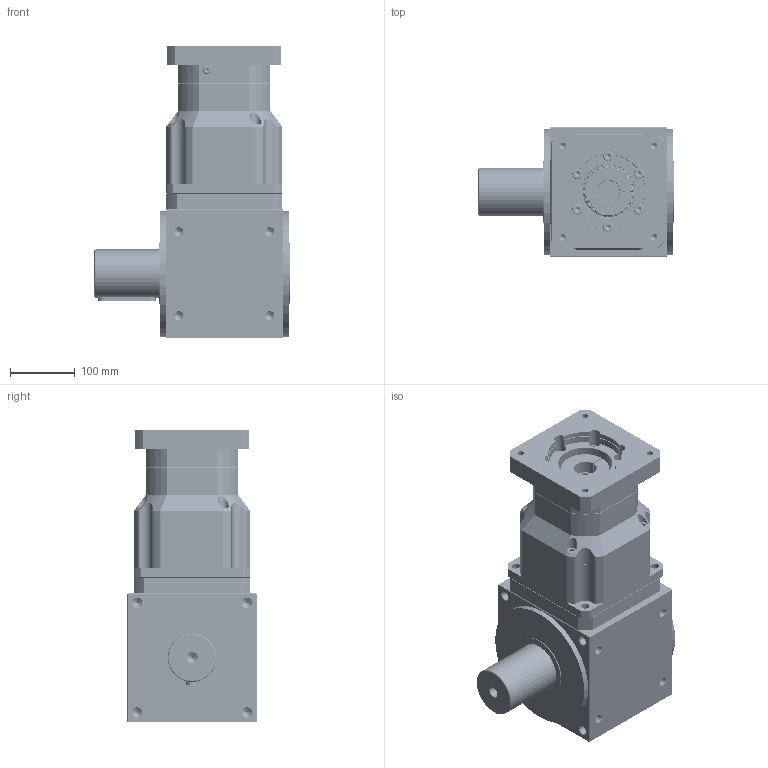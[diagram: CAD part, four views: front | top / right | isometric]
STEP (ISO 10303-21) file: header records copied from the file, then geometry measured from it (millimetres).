
FILE_DESCRIPTION (( 'STEP AP214' ), '1' );
FILE_NAME ('AAW200AS-L2-P 35-114.3-200-M12.STEP', '2021-04-24T05:23:21', ( 'Microsoft' ), ( 'Microsoft China' ), 'SwSTEP 2.0', 'SolidWorks 2016', '' );
FILE_SCHEMA (( 'AUTOMOTIVE_DESIGN' ));
Length unit declared in the file: millimetre
Products named in the file (39): 薊粣ん35K12; 幗渀粣創15.259X21.259; Deep groove ball bearings GB_Rolling bearings 6011 GB 276-94; 俴陎粣15.259; 粣創揤啣105; 蚐猾75X130X12; Circlips for hole--Type B GB_GB_CONNECTING_PIECE_RINGS_CHB 80; Deep groove ball bearings GB_Rolling bearings 61826 GB 276-94; 俴陎謫8; 怀堤粣5B; 幗渀粣創13.513X18.513; Deep groove ball bearings GB_Rolling bearings 6215 GB 276-94; 俴陎謫菜え13.6X27; 齿圈Z108; 俴陎粣13.513; 媼撰笢潔楊擘; AAW200AS-L2-2P--28-110-145-M8-SK; AAW200AS-L2-P 35-114.3-200-M12; 萇儂楊擘D114.3M12; Hex socket set screws with flat point GB_GB_FASTENER_SCREWS_HSFP M12X16-N; 俴陎殤5B-30; 薊粣ん菜え35; Deep groove ball bearings GB_Rolling bearings 61821 GB 276-94; Hexagon socket head cap screws GB_GB_FASTENER_SCREWS_HSHCS M10X30-N; 二级齿圈Z108; Hexagon socket countersunk head screws GB_GB_FASTENER_SCREWS_HSCHS M6X16-N; Spring lock washers--Normal type GB_GB_FASTENER_WASHER_SW 10; Spring lock washers--Normal type GB_GB_FASTENER_WASHER_SW 8; Plain parallel keys_GB_CONNECTING_PIECE_KEYS_CSK C8X22; Hexagon socket head cap screws GB_GB_FASTENER_SCREWS_HSHCS M8X35-N; Circlips for hole--Type B GB_GB_CONNECTING_PIECE_RINGS_CHB 110; Hexagon socket head cap screws GB_GB_FASTENER_SCREWS_HSHCS M10X35-N; Circlips for holes--Type A GB_GB_CONNECTING_PIECE_RING_RRH 130; Plain parallel keys_GB_CONNECTING_PIECE_KEYS_CSK C4X18; 怮栠謫5B; Circlips for shaft--Type A large GB_GB_CONNECTING_PIECE_RING_RRA 55; 俴陎謫5B; 怮栠謫8; 俴陎謫菜え15.4X28
Assembly tree (91 placements, depth 2):
  AAW200AS-L2-P 35-114.3-200-M12
    齿圈Z108
    Deep groove ball bearings GB_Rolling bearings 6215 GB 276-94
    怀堤粣5B
    Deep groove ball bearings GB_Rolling bearings 61826 GB 276-94
    蚐猾75X130X12
    俴陎粣15.259  x3
    幗渀粣創15.259X21.259  x4
    俴陎謫菜え15.4X28  x6
    俴陎謫5B  x3
    怮栠謫5B
    Circlips for holes--Type A GB_GB_CONNECTING_PIECE_RING_RRH 130
    Circlips for hole--Type B GB_GB_CONNECTING_PIECE_RINGS_CHB 110
    Plain parallel keys_GB_CONNECTING_PIECE_KEYS_CSK C8X22
    Spring lock washers--Normal type GB_GB_FASTENER_WASHER_SW 10  x10
    二级齿圈Z108
    Deep groove ball bearings GB_Rolling bearings 61821 GB 276-94
    俴陎殤5B-30
    萇儂楊擘D114.3M12
    媼撰笢潔楊擘
    俴陎粣13.513  x3
    俴陎謫菜え13.6X27  x6
    幗渀粣創13.513X18.513  x3
    俴陎謫8  x3
    Circlips for hole--Type B GB_GB_CONNECTING_PIECE_RINGS_CHB 80
    粣創揤啣105
    Deep groove ball bearings GB_Rolling bearings 6011 GB 276-94
    薊粣ん35K12
    怮栠謫8
    Circlips for shaft--Type A large GB_GB_CONNECTING_PIECE_RING_RRA 55
    Plain parallel keys_GB_CONNECTING_PIECE_KEYS_CSK C4X18
    Hexagon socket head cap screws GB_GB_FASTENER_SCREWS_HSHCS M10X35-N  x10
    Hexagon socket head cap screws GB_GB_FASTENER_SCREWS_HSHCS M8X35-N  x4
    Spring lock washers--Normal type GB_GB_FASTENER_WASHER_SW 8  x4
    Hexagon socket countersunk head screws GB_GB_FASTENER_SCREWS_HSCHS M6X16-N  x6
    Hexagon socket head cap screws GB_GB_FASTENER_SCREWS_HSHCS M10X30-N
    薊粣ん菜え35
    Hex socket set screws with flat point GB_GB_FASTENER_SCREWS_HSFP M12X16-N  x2
    AAW200AS-L2-2P--28-110-145-M8-SK
Bounding box: 302 x 200 x 453 mm (x, y, z)
Volume: 14140528 mm3; surface area: 1390563.3 mm2
Topology: 93 solids, 94 shells, 3127 faces, 9789 edges, 6093 vertices
Faces by surface type: cylinder 972, plane 790, bspline 770, cone 438, sphere 157
Entity records: 134548 total; most frequent: CARTESIAN_POINT 47304, ORIENTED_EDGE 14454, DIRECTION 10684, EDGE_CURVE 7227, VERTEX_POINT 4766, AXIS2_PLACEMENT_3D 4540, CIRCLE 2789, EDGE_LOOP 2629
